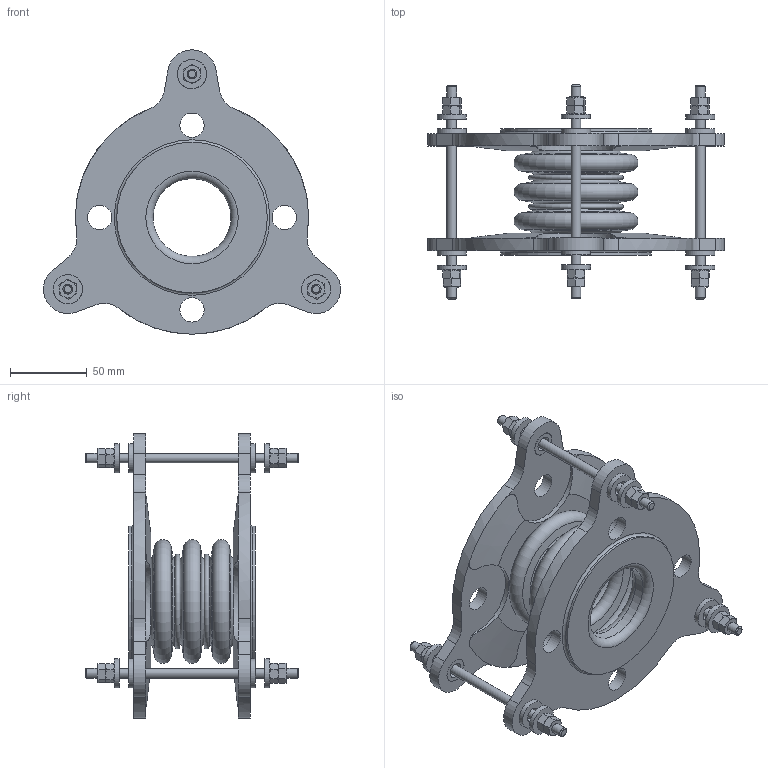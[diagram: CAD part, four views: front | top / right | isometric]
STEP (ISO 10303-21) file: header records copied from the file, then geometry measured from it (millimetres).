
FILE_DESCRIPTION(/* description */ (''),/* implementation_level */ '2;1');
FILE_NAME(/* name */ 'C:\Users\rramoutar\Desktop\803\803 2IDx3.25FF.stp',/* time_stamp */ '2016-04-24T17:42:17-04:00',/* author */ ('rramoutar'),/* organization */ ('Mason Industries Inc.'),/* preprocessor_version */ 'ST-DEVELOPER v15.6',/* originating_system */ 'Autodesk Inventor 2015',/* authorisation */ '');
FILE_SCHEMA (('CONFIG_CONTROL_DESIGN'));
Length unit declared in the file: inch
Products named in the file (1): 803 2IDx3.25FF
Bounding box: 193.98 x 139.7 x 185.74 mm (x, y, z)
Volume: 424480.3 mm3; surface area: 173805.7 mm2
Topology: 6 solids, 12 shells, 499 faces, 1104 edges, 661 vertices
Faces by surface type: cone 194, plane 164, cylinder 115, torus 26
Full cylindrical faces by diameter (mm): 6.35 x15, 7.938 x6, 9.922 x6, 15.478 x6, 15.875 x14, 19.05 x12, 50.8 x2, 53.975 x2, 55.562 x2, 98.425 x2
Entity records: 13006 total; most frequent: CARTESIAN_POINT 2986, DIRECTION 2064, ORIENTED_EDGE 1884, EDGE_CURVE 942, AXIS2_PLACEMENT_3D 942, EDGE_LOOP 710, VERTEX_POINT 632, FACE_OUTER_BOUND 499
